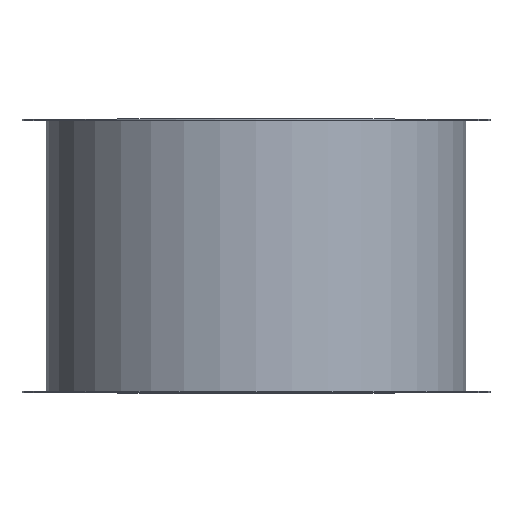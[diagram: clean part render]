
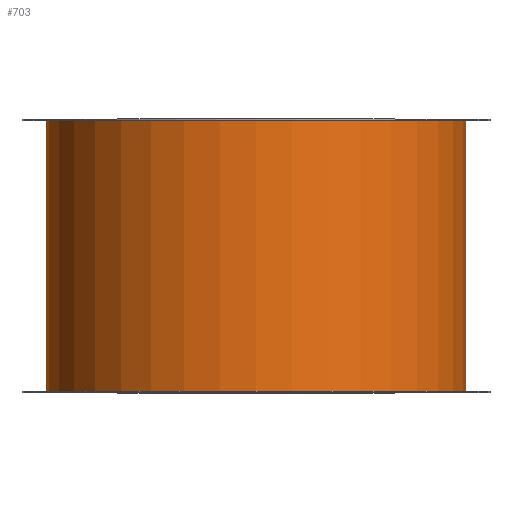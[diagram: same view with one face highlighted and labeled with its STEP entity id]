
A CAD part, top view. The second image highlights one B-rep face of the part: STEP entity #703.
In plain terms, the highlighted cylindrical face has radius 253.5 mm (diameter 507 mm), a full revolution.
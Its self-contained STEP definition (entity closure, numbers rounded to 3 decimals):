
#99=FACE_OUTER_BOUND('',#157,.T.);
#157=EDGE_LOOP('',(#603,#604,#605,#606,#607,#608));
#213=LINE('',#1221,#241);
#241=VECTOR('',#1029,253.5);
#299=CIRCLE('',#811,253.5);
#300=CIRCLE('',#812,253.5);
#301=CIRCLE('',#814,253.5);
#302=CIRCLE('',#815,253.5);
#363=VERTEX_POINT('',#1212);
#364=VERTEX_POINT('',#1213);
#365=VERTEX_POINT('',#1217);
#366=VERTEX_POINT('',#1218);
#453=EDGE_CURVE('',#363,#364,#299,.T.);
#454=EDGE_CURVE('',#364,#363,#300,.T.);
#455=EDGE_CURVE('',#365,#366,#301,.T.);
#456=EDGE_CURVE('',#366,#365,#302,.T.);
#457=EDGE_CURVE('',#366,#364,#213,.T.);
#603=ORIENTED_EDGE('',*,*,#455,.F.);
#604=ORIENTED_EDGE('',*,*,#456,.F.);
#605=ORIENTED_EDGE('',*,*,#457,.T.);
#606=ORIENTED_EDGE('',*,*,#454,.T.);
#607=ORIENTED_EDGE('',*,*,#453,.T.);
#608=ORIENTED_EDGE('',*,*,#457,.F.);
#673=CYLINDRICAL_SURFACE('',#813,253.5);
#703=ADVANCED_FACE('',(#99),#673,.T.);
#811=AXIS2_PLACEMENT_3D('',#1214,#1019,#1020);
#812=AXIS2_PLACEMENT_3D('',#1215,#1021,#1022);
#813=AXIS2_PLACEMENT_3D('',#1216,#1023,#1024);
#814=AXIS2_PLACEMENT_3D('',#1219,#1025,#1026);
#815=AXIS2_PLACEMENT_3D('',#1220,#1027,#1028);
#1019=DIRECTION('center_axis',(0.,1.,0.));
#1020=DIRECTION('ref_axis',(1.,0.,0.));
#1021=DIRECTION('center_axis',(0.,1.,0.));
#1022=DIRECTION('ref_axis',(1.,0.,0.));
#1023=DIRECTION('center_axis',(0.,1.,0.));
#1024=DIRECTION('ref_axis',(-1.,0.,0.));
#1025=DIRECTION('center_axis',(0.,1.,0.));
#1026=DIRECTION('ref_axis',(1.,0.,0.));
#1027=DIRECTION('center_axis',(0.,1.,0.));
#1028=DIRECTION('ref_axis',(1.,0.,0.));
#1029=DIRECTION('',(0.,-1.,0.));
#1212=CARTESIAN_POINT('',(-253.5,1.5,0.));
#1213=CARTESIAN_POINT('',(253.5,1.5,0.));
#1214=CARTESIAN_POINT('Origin',(0.,1.5,0.));
#1215=CARTESIAN_POINT('Origin',(0.,1.5,0.));
#1216=CARTESIAN_POINT('Origin',(0.,165.,0.));
#1217=CARTESIAN_POINT('',(-253.5,328.5,0.));
#1218=CARTESIAN_POINT('',(253.5,328.5,0.));
#1219=CARTESIAN_POINT('Origin',(0.,328.5,0.));
#1220=CARTESIAN_POINT('Origin',(0.,328.5,0.));
#1221=CARTESIAN_POINT('',(253.5,165.,0.));
